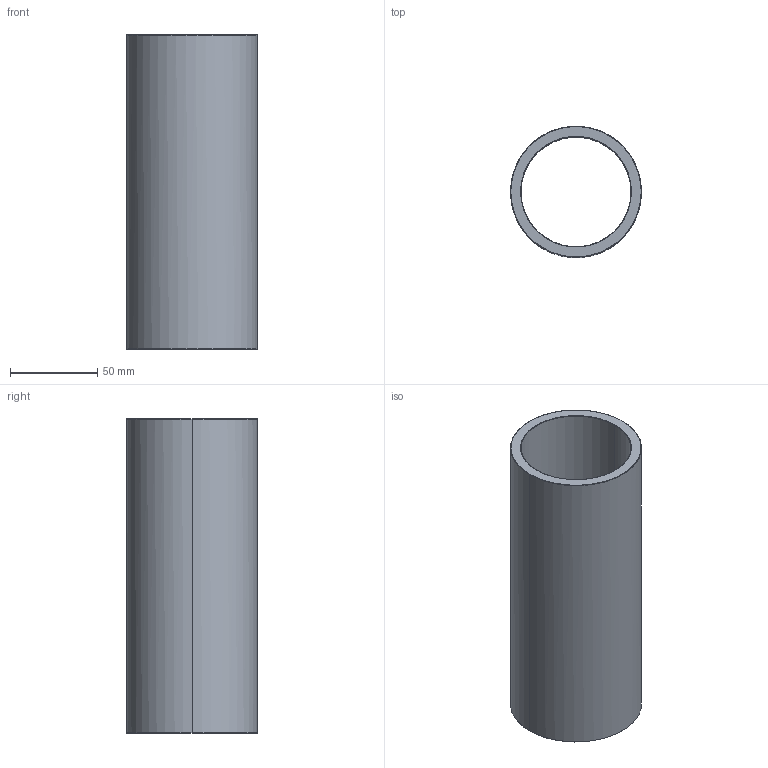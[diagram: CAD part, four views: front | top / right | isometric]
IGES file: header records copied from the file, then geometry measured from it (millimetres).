
Start section: Write IGES format                                    datakit 2008 (c)
Global section: file name: Unknown; native system: DATAKIT Converter; preprocessor: Unknown; author: Unknown; organization: Unknown; date: 950613.180003; units: millimetre
Bounding box: 75 x 74.87 x 180 mm (x, y, z)
Surface area: 80536.8 mm2 (no closed solid volume)
Topology: 0 solids, 0 shells, 14 faces, 56 edges, 56 vertices
Faces by surface type: revolution 12, bspline 2
